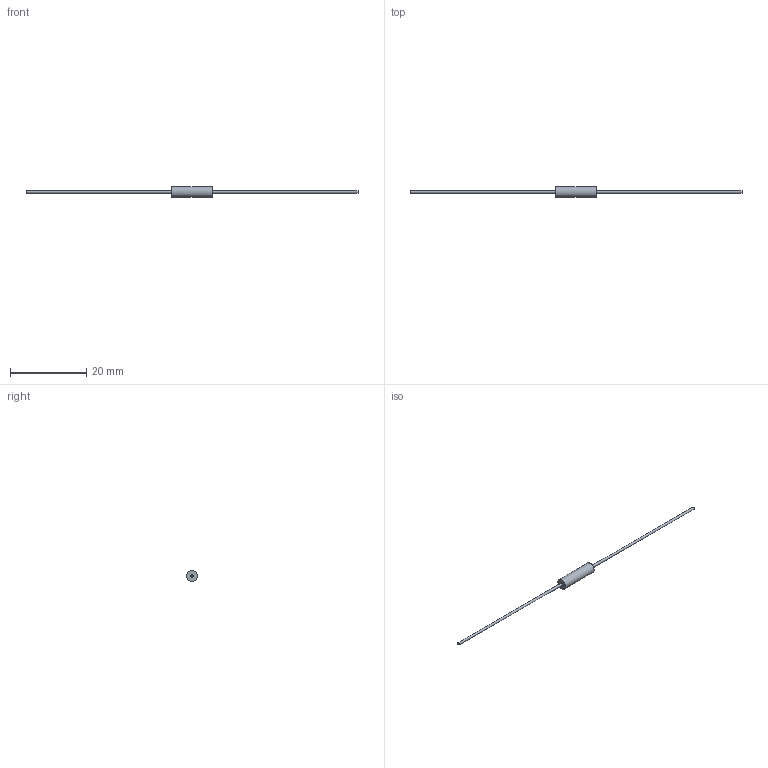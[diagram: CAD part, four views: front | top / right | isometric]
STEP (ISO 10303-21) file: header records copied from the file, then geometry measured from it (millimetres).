
FILE_DESCRIPTION(/* description */ (''),/* implementation_level */ '2;1');
FILE_NAME(/* name */ 'C:\Users\mulla\Documents\SEI Models\Inventor Files\WW_MWW_NWW_WWS\3D\WW1A_NWW1A_stp.stp',/* time_stamp */ '2019-07-10T21:32:18-04:00',/* author */ ('mulla'),/* organization */ (''),/* preprocessor_version */ 'ST-DEVELOPER v16.1',/* originating_system */ 'Autodesk Inventor 2016',/* authorisation */ '');
FILE_SCHEMA (('AUTOMOTIVE_DESIGN { 1 0 10303 214 3 1 1 }'));
Length unit declared in the file: millimetre
Products named in the file (1): WW1A_NWW1A
Bounding box: 86.87 x 2.79 x 2.79 mm (x, y, z)
Volume: 89.7 mm3; surface area: 260.2 mm2
Topology: 3 solids, 3 shells, 9 faces, 9 edges, 6 vertices
Faces by surface type: plane 6, cylinder 3
Full cylindrical faces by diameter (mm): 0.64 x2, 2.79 x1
Entity records: 199 total; most frequent: DIRECTION 32, CARTESIAN_POINT 22, AXIS2_PLACEMENT_3D 16, EDGE_LOOP 12, ORIENTED_EDGE 12, STYLED_ITEM 12, FACE_OUTER_BOUND 9, ADVANCED_FACE 9
